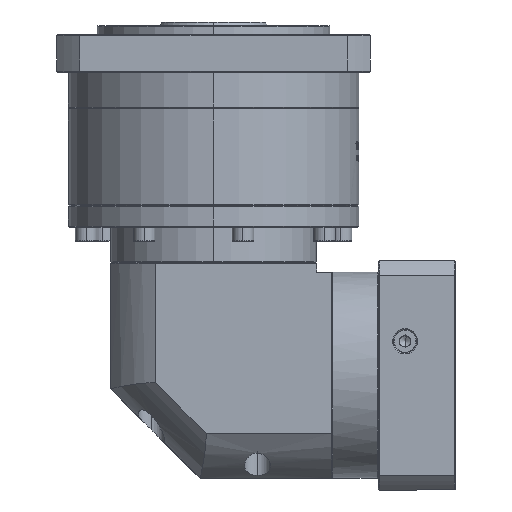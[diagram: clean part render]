
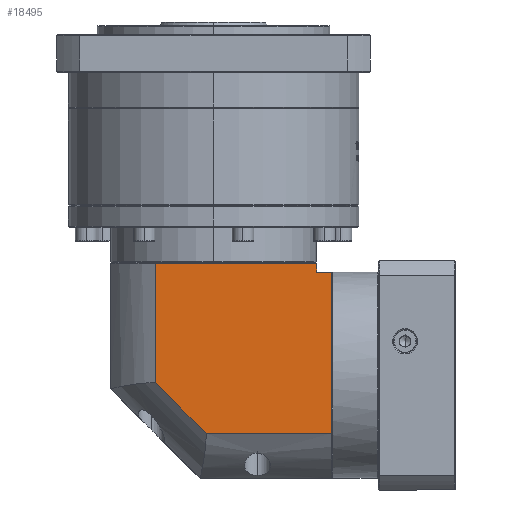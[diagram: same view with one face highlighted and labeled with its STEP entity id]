
A CAD part, left-side view. The second image highlights one B-rep face of the part: STEP entity #18495.
In plain terms, the highlighted planar face has unit normal (-1, 0, 0).
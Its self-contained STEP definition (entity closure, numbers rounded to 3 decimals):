
#667 = ORIENTED_EDGE ( 'NONE', *, *, #118342, .T. ) ;
#4324 = CARTESIAN_POINT ( 'NONE',  ( -255.126, 15.695, 67.062 ) ) ;
#5338 = VECTOR ( 'NONE', #59952, 1000. ) ;
#5340 = CARTESIAN_POINT ( 'NONE',  ( -255.126, 15.695, 73.562 ) ) ;
#5619 = CARTESIAN_POINT ( 'NONE',  ( -255.126, -37.743, -27.838 ) ) ;
#10942 = ORIENTED_EDGE ( 'NONE', *, *, #56741, .F. ) ;
#11441 = EDGE_CURVE ( 'NONE', #130532, #47477, #126408, .T. ) ;
#13902 = VERTEX_POINT ( 'NONE', #78972 ) ;
#18495 = ADVANCED_FACE ( 'NONE', ( #41636 ), #149919, .F. ) ;
#22840 = EDGE_LOOP ( 'NONE', ( #44828, #56272, #47997, #10942, #667, #93878, #120576 ) ) ;
#25055 = AXIS2_PLACEMENT_3D ( 'NONE', #5340, #88823, #29349 ) ;
#27795 = VECTOR ( 'NONE', #135824, 1000. ) ;
#29349 = DIRECTION ( 'NONE',  ( 0., 1., 0. ) ) ;
#32906 = VECTOR ( 'NONE', #55645, 1000. ) ;
#41636 = FACE_OUTER_BOUND ( 'NONE', #22840, .T. ) ;
#42477 = VECTOR ( 'NONE', #111439, 1000. ) ;
#44828 = ORIENTED_EDGE ( 'NONE', *, *, #65053, .F. ) ;
#45851 = LINE ( 'NONE', #145674, #72037 ) ;
#47477 = VERTEX_POINT ( 'NONE', #5619 ) ;
#47997 = ORIENTED_EDGE ( 'NONE', *, *, #11441, .F. ) ;
#50997 = CARTESIAN_POINT ( 'NONE',  ( -255.126, -107.705, 62.062 ) ) ;
#51940 = CARTESIAN_POINT ( 'NONE',  ( -255.126, 15.695, -27.838 ) ) ;
#55645 = DIRECTION ( 'NONE',  ( 0., 1., 0. ) ) ;
#56272 = ORIENTED_EDGE ( 'NONE', *, *, #91113, .F. ) ;
#56643 = CARTESIAN_POINT ( 'NONE',  ( -255.126, -9.405, 73.562 ) ) ;
#56741 = EDGE_CURVE ( 'NONE', #140494, #130532, #45851, .T. ) ;
#59952 = DIRECTION ( 'NONE',  ( 0., 0.707, 0.707 ) ) ;
#62325 = VERTEX_POINT ( 'NONE', #117177 ) ;
#65053 = EDGE_CURVE ( 'NONE', #111516, #13902, #130119, .T. ) ;
#68846 = LINE ( 'NONE', #94883, #5338 ) ;
#71343 = LINE ( 'NONE', #135198, #129246 ) ;
#72037 = VECTOR ( 'NONE', #121632, 1000. ) ;
#77291 = DIRECTION ( 'NONE',  ( 0., 0., 1. ) ) ;
#78972 = CARTESIAN_POINT ( 'NONE',  ( -255.126, -9.405, 67.062 ) ) ;
#80049 = LINE ( 'NONE', #4324, #27795 ) ;
#84696 = EDGE_CURVE ( 'NONE', #13902, #62325, #80049, .T. ) ;
#88823 = DIRECTION ( 'NONE',  ( 1., 0., 0. ) ) ;
#91113 = EDGE_CURVE ( 'NONE', #47477, #111516, #68846, .T. ) ;
#93878 = ORIENTED_EDGE ( 'NONE', *, *, #101279, .T. ) ;
#94883 = CARTESIAN_POINT ( 'NONE',  ( -255.126, -37.743, -27.838 ) ) ;
#100925 = VERTEX_POINT ( 'NONE', #117530 ) ;
#101279 = EDGE_CURVE ( 'NONE', #100925, #62325, #71343, .T. ) ;
#107672 = VECTOR ( 'NONE', #140136, 1000. ) ;
#111439 = DIRECTION ( 'NONE',  ( 0., 1., 0. ) ) ;
#111516 = VERTEX_POINT ( 'NONE', #137621 ) ;
#116924 = LINE ( 'NONE', #117737, #32906 ) ;
#117177 = CARTESIAN_POINT ( 'NONE',  ( -255.126, -99.305, 67.062 ) ) ;
#117530 = CARTESIAN_POINT ( 'NONE',  ( -255.126, -99.305, 62.062 ) ) ;
#117737 = CARTESIAN_POINT ( 'NONE',  ( -255.126, -99.305, 62.062 ) ) ;
#118342 = EDGE_CURVE ( 'NONE', #140494, #100925, #116924, .T. ) ;
#120576 = ORIENTED_EDGE ( 'NONE', *, *, #84696, .F. ) ;
#121632 = DIRECTION ( 'NONE',  ( 0., 0., -1. ) ) ;
#126408 = LINE ( 'NONE', #51940, #42477 ) ;
#129246 = VECTOR ( 'NONE', #77291, 1000. ) ;
#130119 = LINE ( 'NONE', #56643, #107672 ) ;
#130532 = VERTEX_POINT ( 'NONE', #152061 ) ;
#135198 = CARTESIAN_POINT ( 'NONE',  ( -255.126, -99.305, -52.938 ) ) ;
#135824 = DIRECTION ( 'NONE',  ( 0., -1., 0. ) ) ;
#137621 = CARTESIAN_POINT ( 'NONE',  ( -255.126, -9.405, 0.5 ) ) ;
#140136 = DIRECTION ( 'NONE',  ( 0., 0., 1. ) ) ;
#140494 = VERTEX_POINT ( 'NONE', #50997 ) ;
#145674 = CARTESIAN_POINT ( 'NONE',  ( -255.126, -107.705, 73.562 ) ) ;
#149919 = PLANE ( 'NONE',  #25055 ) ;
#152061 = CARTESIAN_POINT ( 'NONE',  ( -255.126, -107.705, -27.838 ) ) ;
